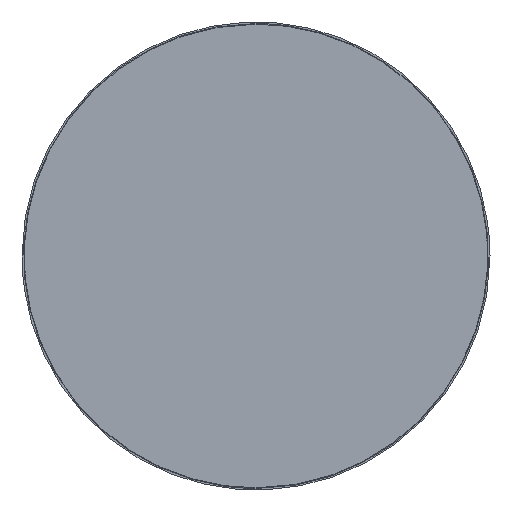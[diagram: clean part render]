
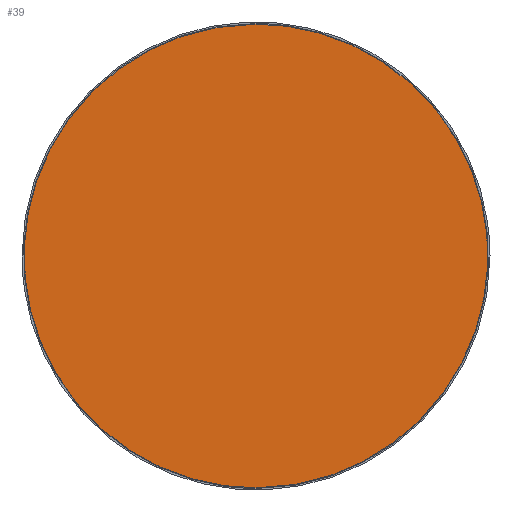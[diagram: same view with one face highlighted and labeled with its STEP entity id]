
A CAD part, top view. The second image highlights one B-rep face of the part: STEP entity #39.
In plain terms, the highlighted planar face has unit normal (0, 0, 1).
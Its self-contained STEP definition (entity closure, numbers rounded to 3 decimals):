
#39=ADVANCED_FACE('',(#61),#279,.T.);
#61=FACE_OUTER_BOUND('',#84,.T.);
#84=EDGE_LOOP('',(#152,#153));
#152=ORIENTED_EDGE('',*,*,#201,.T.);
#153=ORIENTED_EDGE('',*,*,#205,.T.);
#201=EDGE_CURVE('',#267,#269,#243,.T.);
#205=EDGE_CURVE('',#269,#267,#245,.T.);
#243=(
BOUNDED_CURVE()
B_SPLINE_CURVE(2,(#1120,#1121,#1122,#1123,#1124),.UNSPECIFIED.,.F.,.F.)
B_SPLINE_CURVE_WITH_KNOTS((3,2,3),(0.,581.98,1163.96),
 .UNSPECIFIED.)
CURVE()
GEOMETRIC_REPRESENTATION_ITEM()
RATIONAL_B_SPLINE_CURVE((1.,0.707,1.,0.707,1.))
REPRESENTATION_ITEM('')
);
#245=(
BOUNDED_CURVE()
B_SPLINE_CURVE(2,(#1134,#1135,#1136,#1137,#1138),.UNSPECIFIED.,.F.,.F.)
B_SPLINE_CURVE_WITH_KNOTS((3,2,3),(1163.96,1745.939,2327.919),
 .UNSPECIFIED.)
CURVE()
GEOMETRIC_REPRESENTATION_ITEM()
RATIONAL_B_SPLINE_CURVE((1.,0.707,1.,0.707,1.))
REPRESENTATION_ITEM('')
);
#267=VERTEX_POINT('',#1098);
#269=VERTEX_POINT('',#1100);
#279=PLANE('',#388);
#388=AXIS2_PLACEMENT_3D('',#1073,#402,$);
#402=DIRECTION('',(0.,0.,1.));
#1073=CARTESIAN_POINT('',(819.795,-71.805,360.883));
#1098=CARTESIAN_POINT('',(373.995,3.495,360.883));
#1100=CARTESIAN_POINT('',(373.995,744.495,360.883));
#1120=CARTESIAN_POINT('',(373.995,3.495,360.883));
#1121=CARTESIAN_POINT('',(744.495,3.495,360.883));
#1122=CARTESIAN_POINT('',(744.495,373.995,360.883));
#1123=CARTESIAN_POINT('',(744.495,744.495,360.883));
#1124=CARTESIAN_POINT('',(373.995,744.495,360.883));
#1134=CARTESIAN_POINT('',(373.995,744.495,360.883));
#1135=CARTESIAN_POINT('',(3.495,744.495,360.883));
#1136=CARTESIAN_POINT('',(3.495,373.995,360.883));
#1137=CARTESIAN_POINT('',(3.495,3.495,360.883));
#1138=CARTESIAN_POINT('',(373.995,3.495,360.883));
